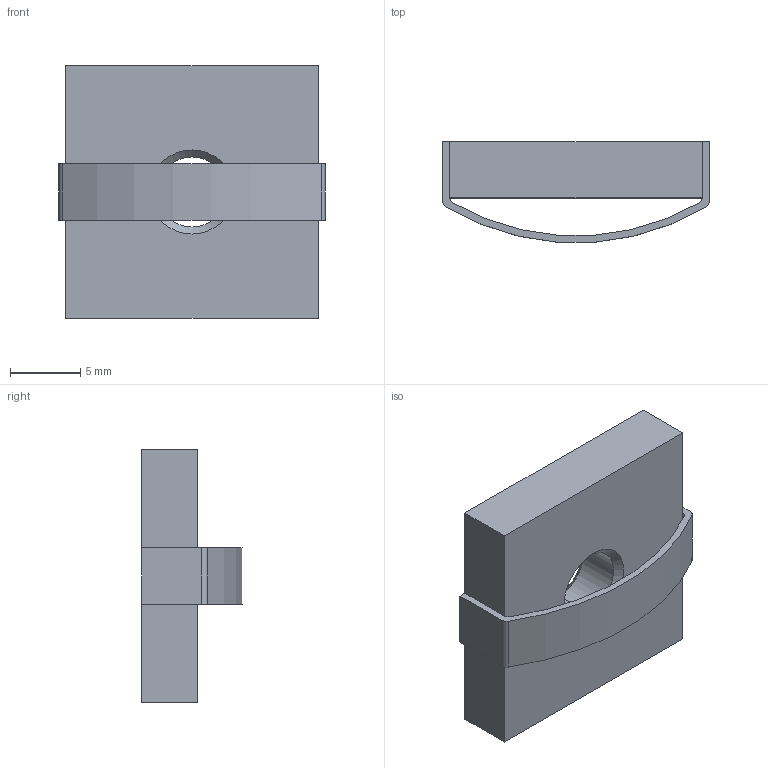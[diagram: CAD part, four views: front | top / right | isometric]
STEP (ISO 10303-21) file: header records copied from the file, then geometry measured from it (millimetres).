
FILE_DESCRIPTION (( 'STEP AP214' ), '1' );
FILE_NAME ('SNSD.30.51.32. Ñóõàðü ïàçîâûé ñ ïðóæèííîé ïëàñòèíîé M6, ïàç 10(B80).STEP', '2014-12-01T08:36:48', ( 'XTreme.ws' ), ( 'XTreme.ws' ), 'SwSTEP 2.0', 'SolidWorks 2014', '' );
FILE_SCHEMA (( 'AUTOMOTIVE_DESIGN' ));
Length unit declared in the file: millimetre
Products named in the file (3): SNSD.30.51.19. ﾏ跖浯(B79)B80_00; SNSD.30.51.32. Ñóõàðü ïàçîâûé ñ ïðóæèííîé ïëàñòèíîé M6, ïàç 10(B80); SNSD.30.51.19. Ñóõàðü ïàçîâûé ñ ïðóæèííîé ïëàñòèíîé M6, ïàç 8(B79)B80_00
Assembly tree (2 placements, depth 2):
  SNSD.30.51.32. Ñóõàðü ïàçîâûé ñ ïðóæèííîé ïëàñòèíîé M6, ïàç 10(B80)
    SNSD.30.51.19. Ñóõàðü ïàçîâûé ñ ïðóæèííîé ïëàñòèíîé M6, ïàç 8(B79)B80_00
    SNSD.30.51.19. ﾏ跖浯(B79)B80_00
Bounding box: 19 x 7.15 x 18 mm (x, y, z)
Volume: 1269.6 mm3; surface area: 1207.7 mm2
Topology: 2 solids, 2 shells, 26 faces, 62 edges, 40 vertices
Faces by surface type: plane 14, cylinder 8, cone 4
Entity records: 890 total; most frequent: DIRECTION 144, CARTESIAN_POINT 133, ORIENTED_EDGE 124, EDGE_CURVE 62, AXIS2_PLACEMENT_3D 51, VECTOR 42, LINE 42, VERTEX_POINT 40
